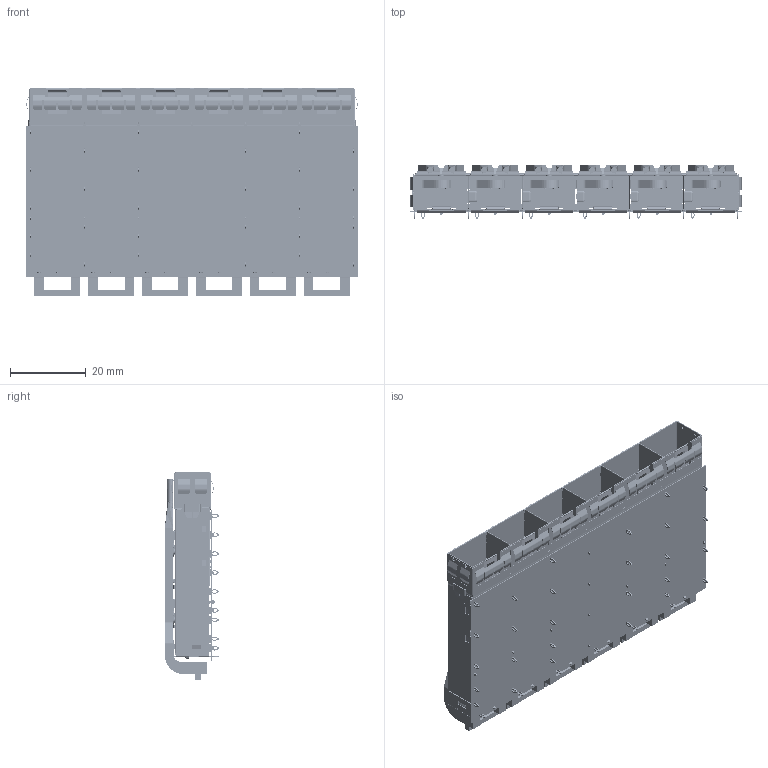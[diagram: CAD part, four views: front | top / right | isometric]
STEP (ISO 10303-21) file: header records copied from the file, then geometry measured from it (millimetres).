
FILE_DESCRIPTION(/* description */ (''),/* implementation_level */ '2;1');
FILE_NAME(/* name */ '_model2.stp',/* time_stamp */ '2025-07-15T09:38:18+08:00',/* author */ (''),/* organization */ (''),/* preprocessor_version */ 'ST-DEVELOPER v16.7',/* originating_system */ 'SIEMENS PLM Software NX 1847',/* authorisation */ '');
FILE_SCHEMA (('AUTOMOTIVE_DESIGN { 1 0 10303 214 3 1 1 1 }'));
Products named in the file (1): Admi28DCAF1Bf2tl
Bounding box: 87.75 x 14.37 x 54.82 mm (x, y, z)
Volume: 7560.7 mm3; surface area: 38664.5 mm2
Topology: 2 solids, 2 shells, 6398 faces, 18870 edges, 12278 vertices
Faces by surface type: cylinder 3127, plane 2936, bspline 193, torus 116, sphere 24, cone 2
Entity records: 224280 total; most frequent: CARTESIAN_POINT 48990, ORIENTED_EDGE 37692, DIRECTION 36884, EDGE_CURVE 18846, AXIS2_PLACEMENT_3D 12533, VERTEX_POINT 12278, LINE 11818, VECTOR 11818
